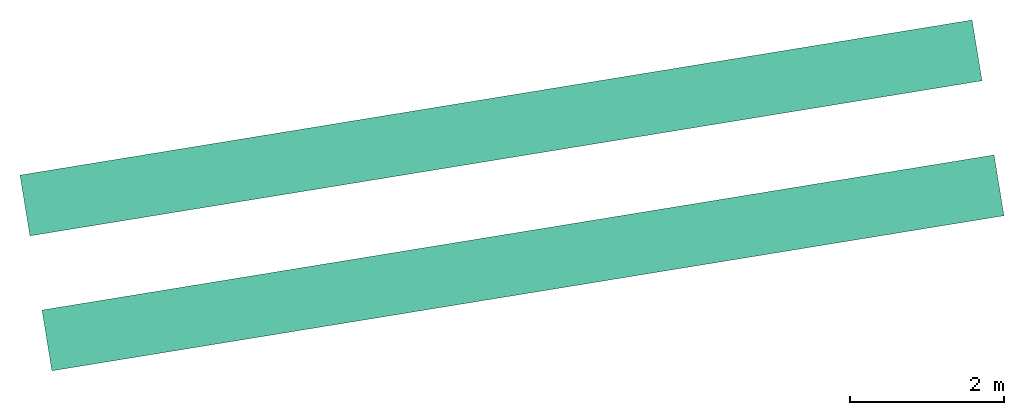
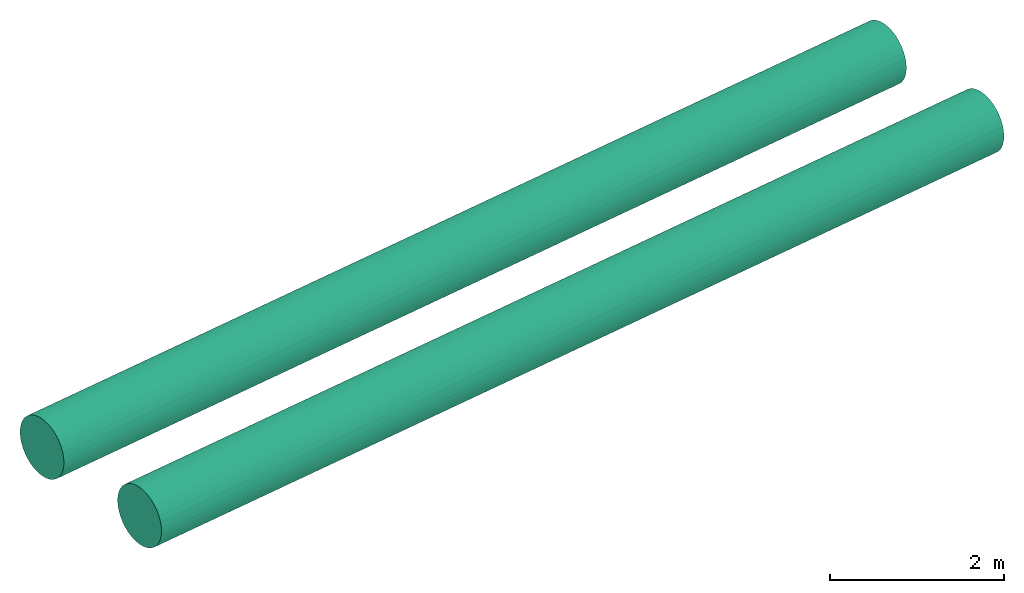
# One storey: 2 flow segments.
"""IFC2X3 building model written with IfcOpenShell, lengths in millimetres."""

from ifc_helpers import new_model, entity, si_unit, converted_unit, derived_unit, direction, frame, origin, origin_with_axes, place, context, subcontext, project, spatial, faceted_brep, material, type_object, element, save


model = new_model("IFC2X3")

# Units and contexts
model_context = context("Model", 3, precision=0.01, world=origin(), true_north=direction((6.12323399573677e-17, 1.0)))
plan_context = context("Plan", 3, precision=1e-05, world=origin_with_axes())
body_context = subcontext(model_context, "Body", "Model", "MODEL_VIEW")
ifc_project = project(units=[converted_unit("PLANEANGLEUNIT", "DEGREE", entity("IfcPositiveLengthMeasure", 0.0174532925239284), si_unit("PLANEANGLEUNIT", "RADIAN"), dimensions=[0, 0, 0, 0, 0, 0, 0]), si_unit("AREAUNIT", "SQUARE_METRE"), si_unit("LENGTHUNIT", "METRE", prefix="MILLI"), si_unit("MASSUNIT", "GRAM", prefix="KILO"), si_unit("POWERUNIT", "WATT"), si_unit("PRESSUREUNIT", "PASCAL", prefix="KILO"), si_unit("FORCEUNIT", "NEWTON", prefix="KILO"), si_unit("ELECTRICVOLTAGEUNIT", "VOLT"), si_unit("ELECTRICCURRENTUNIT", "AMPERE"), si_unit("THERMODYNAMICTEMPERATUREUNIT", "DEGREE_CELSIUS"), si_unit("TIMEUNIT", "SECOND"), si_unit("VOLUMEUNIT", "CUBIC_METRE"), derived_unit("LINEARVELOCITYUNIT", [(si_unit("LENGTHUNIT", "METRE"), 1), (si_unit("TIMEUNIT", "SECOND"), -1)]), derived_unit("VOLUMETRICFLOWRATEUNIT", [(si_unit("VOLUMEUNIT", "CUBIC_METRE"), 1), (si_unit("TIMEUNIT", "SECOND"), -1)]), derived_unit("THERMALTRANSMITTANCEUNIT", [(si_unit("POWERUNIT", "WATT"), 1), (si_unit("THERMODYNAMICTEMPERATUREUNIT", "KELVIN"), -1), (si_unit("AREAUNIT", "SQUARE_METRE"), -1)]), derived_unit("SOUNDPRESSUREUNIT", [(si_unit("PRESSUREUNIT", "PASCAL"), 1)])], contexts=[model_context, plan_context])

# Site, building, storey
site_placement = place(None, frame((5.09380697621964e-08, 5.80416781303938e-08, 0.0), z_axis=(0.0, 0.0, 1.0), x_axis=(-0.160806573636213, 0.986985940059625, 0.0)))
site = spatial("IfcSite", under=ifc_project, at=site_placement, Name="Default", CompositionType="ELEMENT")
building_placement = place(site_placement, frame((0.0, 0.0, 0.0), z_axis=(0.0, 0.0, 1.0), x_axis=(1.0, -2.77555756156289e-17, 0.0)))
building = spatial("IfcBuilding", under=site, at=building_placement, Name="Bygning (endres i Project Information)", CompositionType="ELEMENT")
storey_placement = place(building_placement, frame((0.0, 0.0, 55499.9999999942), z_axis=(0.0, 0.0, 1.0), x_axis=(1.0, -2.77555756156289e-17, 0.0)))
storey = spatial("IfcBuildingStorey", under=building, at=storey_placement, Name="H02-Nivå F-3,5 m", CompositionType="ELEMENT", Elevation=55499.9999999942)

# Flow segments
ifc_material = material(Name="3601.001 Tilluft")
duct_segment_type = type_object("IfcDuctSegmentType", Name="Round Duct:Sirkulær kanal", PredefinedType="NOTDEFINED", material=ifc_material)
flow_segment_1_placement = place(storey_placement, frame((0.0, 0.0, 0.0), z_axis=(0.0, 0.0, 1.0), x_axis=(1.0, -2.77555756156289e-17, 0.0)))
element("IfcFlowSegment", 1, at=flow_segment_1_placement, inside=storey, type_object=duct_segment_type, Name="Round Duct:Sirkulær kanal", ObjectType="Round Duct:Sirkulær kanal", context=body_context, shape_type="Brep", body=[
    faceted_brep([(992965.510638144, -384051.763990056, 3230.54072882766), (992959.433739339, -384051.763990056, 3300.00000000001), (992959.433739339, -396579.084056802, 3300.00000000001), (992965.510638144, -396579.084056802, 3230.54072882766), (992965.510638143, -384051.763990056, 3369.45927117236), (992965.510638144, -396579.084056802, 3369.45927117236), (992983.556691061, -384051.763990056, 3436.80805753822), (992983.556691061, -396579.084056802, 3436.80805753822), (993013.023577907, -384051.763990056, 3500.00000030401), (993013.023577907, -396579.084056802, 3500.00000030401), (993053.015962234, -384051.763990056, 3557.11504426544), (993053.015962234, -396579.084056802, 3557.11504426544), (993102.318695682, -384051.763990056, 3606.41777771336), (993102.318695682, -396579.084056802, 3606.41777771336), (993159.433739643, -384051.763990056, 3646.41016204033), (993159.433739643, -396579.084056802, 3646.41016204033), (993222.625682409, -384051.763990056, 3675.8770488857), (993222.625682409, -396579.084056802, 3675.8770488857), (993289.974468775, -384051.763990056, 3693.92310180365), (993289.974468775, -396579.084056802, 3693.92310180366), (993359.433739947, -384051.763990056, 3700.00000060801), (993359.433739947, -396579.084056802, 3700.00000060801), (993428.893011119, -384051.763990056, 3693.92310180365), (993428.893011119, -396579.084056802, 3693.92310180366), (993496.241797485, -384051.763990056, 3675.87704888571), (993496.241797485, -396579.084056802, 3675.87704888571), (993559.433740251, -384051.763990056, 3646.41016204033), (993559.433740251, -396579.084056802, 3646.41016204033), (993616.548784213, -384051.763990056, 3606.41777771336), (993616.548784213, -396579.084056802, 3606.41777771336), (993665.851517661, -384051.763990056, 3557.11504426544), (993665.851517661, -396579.084056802, 3557.11504426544), (993705.843901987, -384051.763990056, 3500.00000030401), (993705.843901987, -396579.084056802, 3500.00000030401), (993735.310788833, -384051.763990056, 3436.80805753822), (993735.310788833, -396579.084056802, 3436.80805753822), (993753.356841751, -384051.763990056, 3369.45927117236), (993753.356841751, -396579.084056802, 3369.45927117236), (993759.433740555, -384051.763990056, 3300.00000000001), (993759.433740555, -396579.084056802, 3300.00000000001), (993753.356841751, -384051.763990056, 3230.54072882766), (993753.356841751, -396579.084056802, 3230.54072882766), (993735.310788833, -384051.763990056, 3163.19194246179), (993735.310788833, -396579.084056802, 3163.19194246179), (993705.843901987, -384051.763990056, 3099.99999969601), (993705.843901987, -396579.084056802, 3099.99999969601), (993665.851517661, -384051.763990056, 3042.88495573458), (993665.851517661, -396579.084056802, 3042.88495573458), (993616.548784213, -384051.763990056, 2993.58222228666), (993616.548784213, -396579.084056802, 2993.58222228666), (993559.433740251, -384051.763990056, 2953.58983795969), (993559.433740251, -396579.084056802, 2953.58983795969), (993496.241797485, -384051.763990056, 2924.12295111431), (993496.241797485, -396579.084056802, 2924.12295111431), (993428.893011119, -384051.763990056, 2906.07689819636), (993428.893011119, -396579.084056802, 2906.07689819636), (993359.433739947, -384051.763990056, 2899.99999939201), (993359.433739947, -396579.084056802, 2899.99999939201), (993289.974468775, -384051.763990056, 2906.07689819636), (993289.974468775, -396579.084056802, 2906.07689819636), (993222.625682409, -384051.763990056, 2924.12295111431), (993222.625682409, -396579.084056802, 2924.12295111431), (993159.433739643, -384051.763990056, 2953.58983795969), (993159.433739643, -396579.084056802, 2953.58983795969), (993102.318695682, -384051.763990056, 2993.58222228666), (993102.318695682, -396579.084056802, 2993.58222228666), (993053.015962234, -384051.763990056, 3042.88495573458), (993053.015962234, -396579.084056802, 3042.88495573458), (993013.023577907, -384051.763990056, 3099.99999969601), (993013.023577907, -396579.084056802, 3099.99999969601), (992983.556691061, -384051.763990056, 3163.19194246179), (992983.556691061, -396579.084056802, 3163.19194246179)], [[[0, 1, 2, 3]], [[1, 4, 5, 2]], [[4, 6, 7, 5]], [[6, 8, 9, 7]], [[8, 10, 11, 9]], [[10, 12, 13, 11]], [[12, 14, 15, 13]], [[14, 16, 17, 15]], [[16, 18, 19, 17]], [[18, 20, 21, 19]], [[20, 22, 23, 21]], [[22, 24, 25, 23]], [[24, 26, 27, 25]], [[26, 28, 29, 27]], [[28, 30, 31, 29]], [[30, 32, 33, 31]], [[32, 34, 35, 33]], [[34, 36, 37, 35]], [[36, 38, 39, 37]], [[38, 40, 41, 39]], [[40, 42, 43, 41]], [[42, 44, 45, 43]], [[44, 46, 47, 45]], [[46, 48, 49, 47]], [[48, 50, 51, 49]], [[50, 52, 53, 51]], [[52, 54, 55, 53]], [[54, 56, 57, 55]], [[56, 58, 59, 57]], [[58, 60, 61, 59]], [[60, 62, 63, 61]], [[62, 64, 65, 63]], [[64, 66, 67, 65]], [[66, 68, 69, 67]], [[68, 70, 71, 69]], [[70, 0, 3, 71]], [[70, 68, 66, 64, 62, 60, 58, 56, 54, 52, 50, 48, 46, 44, 42, 40, 38, 36, 34, 32, 30, 28, 26, 24, 22, 20, 18, 16, 14, 12, 10, 8, 6, 4, 1, 0]], [[5, 7, 9, 11, 13, 15, 17, 19, 21, 23, 25, 27, 29, 31, 33, 35, 37, 39, 41, 43, 45, 47, 49, 51, 53, 55, 57, 59, 61, 63, 65, 67, 69, 71, 3, 2]]], orient=[[False], [False], [False], [False], [False], [False], [False], [False], [False], [False], [False], [False], [False], [False], [False], [False], [False], [False], [False], [False], [False], [False], [False], [False], [False], [False], [False], [False], [False], [False], [False], [False], [False], [False], [False], [False], [False], [False]]),
])
flow_segment_2_placement = place(storey_placement, frame((0.0, 0.0, 0.0), z_axis=(0.0, 0.0, 1.0), x_axis=(1.0, -2.77555756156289e-17, 0.0)))
element("IfcFlowSegment", 2, at=flow_segment_2_placement, inside=storey, type_object=duct_segment_type, Name="Round Duct:Sirkulær kanal", ObjectType="Round Duct:Sirkulær kanal", context=body_context, shape_type="Brep", body=[
    faceted_brep([(994740.808120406, -384051.763990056, 3230.54072882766), (994734.731221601, -384051.763990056, 3300.00000000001), (994734.731221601, -396579.084056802, 3300.00000000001), (994740.808120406, -396579.084056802, 3230.54072882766), (994740.808120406, -384051.763990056, 3369.45927117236), (994740.808120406, -396579.084056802, 3369.45927117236), (994758.854173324, -384051.763990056, 3436.80805753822), (994758.854173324, -396579.084056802, 3436.80805753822), (994788.321060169, -384051.763990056, 3500.00000030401), (994788.321060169, -396579.084056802, 3500.00000030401), (994828.313444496, -384051.763990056, 3557.11504426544), (994828.313444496, -396579.084056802, 3557.11504426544), (994877.616177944, -384051.763990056, 3606.41777771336), (994877.616177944, -396579.084056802, 3606.41777771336), (994934.731221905, -384051.763990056, 3646.41016204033), (994934.731221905, -396579.084056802, 3646.41016204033), (994997.923164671, -384051.763990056, 3675.8770488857), (994997.923164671, -396579.084056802, 3675.8770488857), (995065.271951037, -384051.763990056, 3693.92310180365), (995065.271951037, -396579.084056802, 3693.92310180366), (995134.731222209, -384051.763990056, 3700.00000060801), (995134.731222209, -396579.084056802, 3700.00000060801), (995204.190493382, -384051.763990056, 3693.92310180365), (995204.190493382, -396579.084056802, 3693.92310180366), (995271.539279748, -384051.763990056, 3675.87704888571), (995271.539279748, -396579.084056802, 3675.87704888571), (995334.731222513, -384051.763990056, 3646.41016204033), (995334.731222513, -396579.084056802, 3646.41016204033), (995391.846266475, -384051.763990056, 3606.41777771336), (995391.846266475, -396579.084056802, 3606.41777771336), (995441.148999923, -384051.763990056, 3557.11504426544), (995441.148999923, -396579.084056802, 3557.11504426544), (995481.14138425, -384051.763990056, 3500.00000030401), (995481.14138425, -396579.084056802, 3500.00000030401), (995510.608271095, -384051.763990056, 3436.80805753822), (995510.608271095, -396579.084056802, 3436.80805753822), (995528.654324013, -384051.763990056, 3369.45927117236), (995528.654324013, -396579.084056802, 3369.45927117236), (995534.731222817, -384051.763990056, 3300.00000000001), (995534.731222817, -396579.084056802, 3300.00000000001), (995528.654324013, -384051.763990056, 3230.54072882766), (995528.654324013, -396579.084056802, 3230.54072882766), (995510.608271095, -384051.763990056, 3163.19194246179), (995510.608271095, -396579.084056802, 3163.19194246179), (995481.14138425, -384051.763990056, 3099.99999969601), (995481.14138425, -396579.084056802, 3099.99999969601), (995441.148999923, -384051.763990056, 3042.88495573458), (995441.148999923, -396579.084056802, 3042.88495573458), (995391.846266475, -384051.763990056, 2993.58222228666), (995391.846266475, -396579.084056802, 2993.58222228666), (995334.731222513, -384051.763990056, 2953.58983795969), (995334.731222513, -396579.084056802, 2953.58983795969), (995271.539279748, -384051.763990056, 2924.12295111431), (995271.539279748, -396579.084056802, 2924.12295111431), (995204.190493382, -384051.763990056, 2906.07689819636), (995204.190493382, -396579.084056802, 2906.07689819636), (995134.731222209, -384051.763990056, 2899.99999939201), (995134.731222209, -396579.084056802, 2899.99999939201), (995065.271951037, -384051.763990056, 2906.07689819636), (995065.271951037, -396579.084056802, 2906.07689819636), (994997.923164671, -384051.763990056, 2924.12295111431), (994997.923164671, -396579.084056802, 2924.12295111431), (994934.731221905, -384051.763990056, 2953.58983795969), (994934.731221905, -396579.084056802, 2953.58983795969), (994877.616177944, -384051.763990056, 2993.58222228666), (994877.616177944, -396579.084056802, 2993.58222228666), (994828.313444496, -384051.763990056, 3042.88495573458), (994828.313444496, -396579.084056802, 3042.88495573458), (994788.321060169, -384051.763990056, 3099.99999969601), (994788.321060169, -396579.084056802, 3099.99999969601), (994758.854173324, -384051.763990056, 3163.19194246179), (994758.854173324, -396579.084056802, 3163.19194246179)], [[[0, 1, 2, 3]], [[1, 4, 5, 2]], [[4, 6, 7, 5]], [[6, 8, 9, 7]], [[8, 10, 11, 9]], [[10, 12, 13, 11]], [[12, 14, 15, 13]], [[14, 16, 17, 15]], [[16, 18, 19, 17]], [[18, 20, 21, 19]], [[20, 22, 23, 21]], [[22, 24, 25, 23]], [[24, 26, 27, 25]], [[26, 28, 29, 27]], [[28, 30, 31, 29]], [[30, 32, 33, 31]], [[32, 34, 35, 33]], [[34, 36, 37, 35]], [[36, 38, 39, 37]], [[38, 40, 41, 39]], [[40, 42, 43, 41]], [[42, 44, 45, 43]], [[44, 46, 47, 45]], [[46, 48, 49, 47]], [[48, 50, 51, 49]], [[50, 52, 53, 51]], [[52, 54, 55, 53]], [[54, 56, 57, 55]], [[56, 58, 59, 57]], [[58, 60, 61, 59]], [[60, 62, 63, 61]], [[62, 64, 65, 63]], [[64, 66, 67, 65]], [[66, 68, 69, 67]], [[68, 70, 71, 69]], [[70, 0, 3, 71]], [[70, 68, 66, 64, 62, 60, 58, 56, 54, 52, 50, 48, 46, 44, 42, 40, 38, 36, 34, 32, 30, 28, 26, 24, 22, 20, 18, 16, 14, 12, 10, 8, 6, 4, 1, 0]], [[5, 7, 9, 11, 13, 15, 17, 19, 21, 23, 25, 27, 29, 31, 33, 35, 37, 39, 41, 43, 45, 47, 49, 51, 53, 55, 57, 59, 61, 63, 65, 67, 69, 71, 3, 2]]], orient=[[False], [False], [False], [False], [False], [False], [False], [False], [False], [False], [False], [False], [False], [False], [False], [False], [False], [False], [False], [False], [False], [False], [False], [False], [False], [False], [False], [False], [False], [False], [False], [False], [False], [False], [False], [False], [False], [False]]),
])

save(model, "model.ifc")
